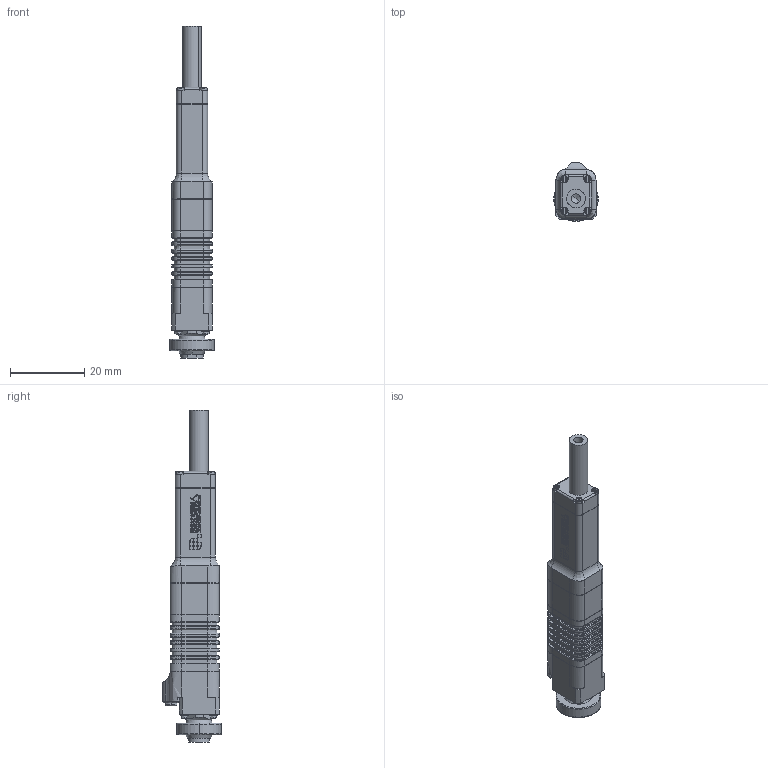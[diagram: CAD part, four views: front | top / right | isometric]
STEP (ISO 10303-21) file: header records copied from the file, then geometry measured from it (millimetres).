
FILE_DESCRIPTION (( 'STEP AP214' ), '1' );
FILE_NAME ('LAF16-0x4D.STEP', '2022-12-06T11:32:11', ( '' ), ( '' ), '', '', '' );
FILE_SCHEMA (( 'AUTOMOTIVE_DESIGN' ));
Length unit declared in the file: millimetre
Products named in the file (6): Part3^LAF16-0x4D-GE4C; 鎮湛茼曹え蹟譫_1; exA820116-015祥凄詩杶奪_1; LAF16-0x4D; NSK-GE4C_1; 菜え_1
Assembly tree (5 placements, depth 2):
  LAF16-0x4D
    exA820116-015祥凄詩杶奪_1
    Part3^LAF16-0x4D-GE4C
    NSK-GE4C_1
    菜え_1
    鎮湛茼曹え蹟譫_1
Bounding box: 12 x 15.8 x 89.2 mm (x, y, z)
Volume: 8370 mm3; surface area: 4580.3 mm2
Topology: 5 solids, 14 shells, 1634 faces, 4226 edges, 2741 vertices
Faces by surface type: plane 854, bspline 594, cylinder 150, cone 36
Entity records: 70979 total; most frequent: CARTESIAN_POINT 27329, ORIENTED_EDGE 8448, DIRECTION 5584, EDGE_CURVE 4224, VERTEX_POINT 2741, LINE 2708, VECTOR 2708, EDGE_LOOP 1773
